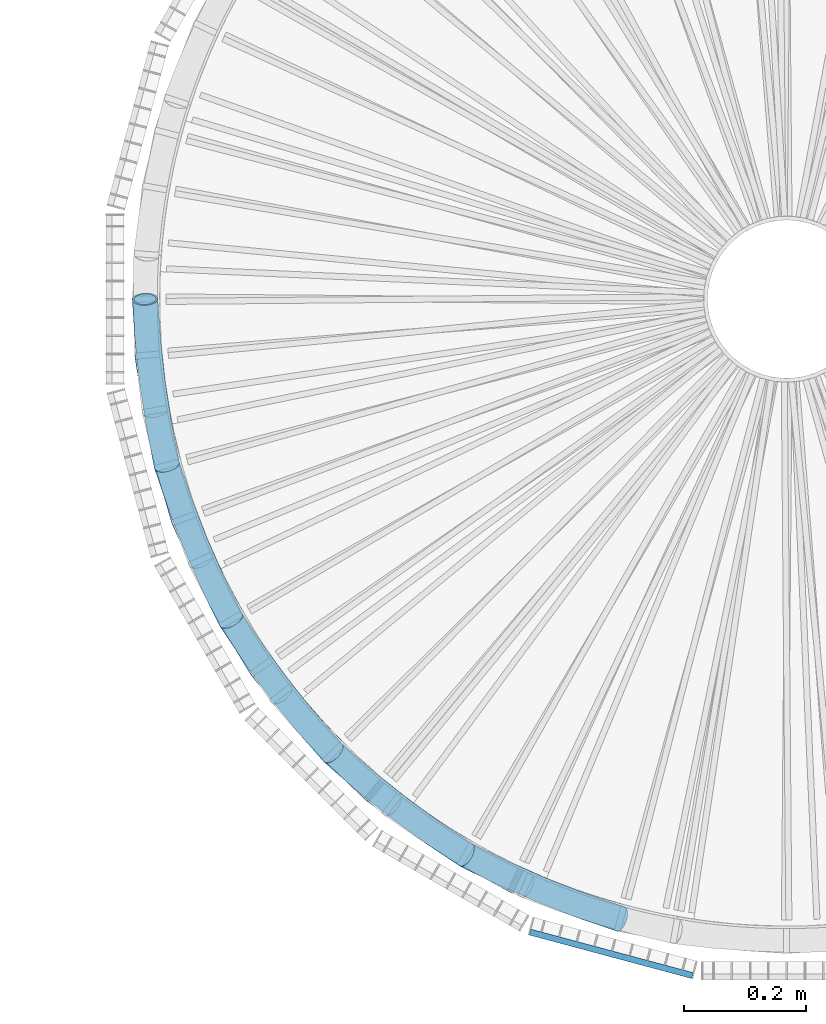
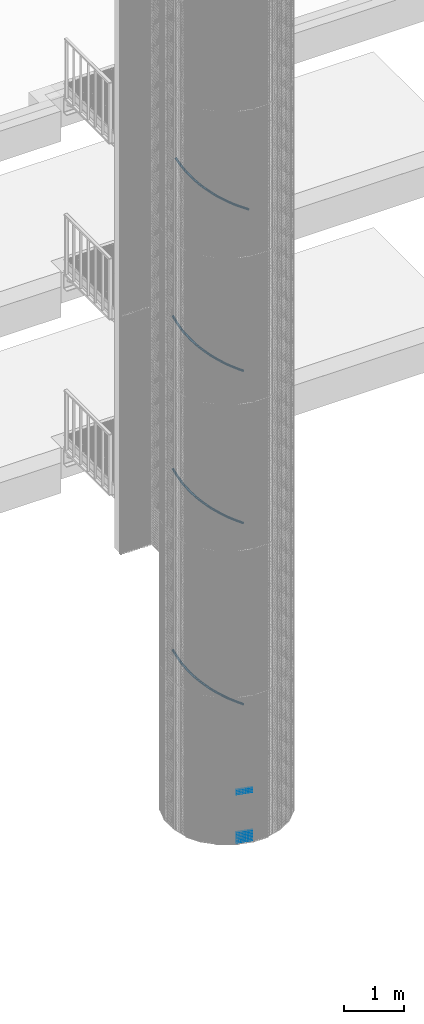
# One storey, part 387 of 1183: 20 members, 12 beams, 21 elements without a shape of their own.
"""IFC2X3 building model written with IfcOpenShell, lengths in millimetres."""

from ifc_helpers import new_model, entity, si_unit, frame, origin_with_axes, origin_2d_with_axis, place, context, subcontext, project, spatial, rectangle, extrude, material, type_object, element, aggregate, save


model = new_model("IFC2X3")

# Units and contexts
model_context = context("Model", 3, precision=1e-05, world=origin_with_axes())
body_context = subcontext(model_context, "Body", "Model", "MODEL_VIEW")
ifc_project = project(units=[si_unit("LENGTHUNIT", "METRE", prefix="MILLI"), si_unit("AREAUNIT", "SQUARE_METRE"), si_unit("VOLUMEUNIT", "CUBIC_METRE"), si_unit("MASSUNIT", "GRAM", prefix="KILO"), si_unit("TIMEUNIT", "SECOND"), si_unit("PLANEANGLEUNIT", "RADIAN"), si_unit("SOLIDANGLEUNIT", "STERADIAN"), si_unit("THERMODYNAMICTEMPERATUREUNIT", "DEGREE_CELSIUS"), si_unit("LUMINOUSINTENSITYUNIT", "LUMEN")], contexts=[model_context])

# Site, building, storey
site_placement = place(None, origin_with_axes())
site = spatial("IfcSite", under=ifc_project, at=site_placement, Name="Undefined", CompositionType="ELEMENT")
building_placement = place(site_placement, origin_with_axes())
building = spatial("IfcBuilding", under=site, at=building_placement, Name="Undefined", CompositionType="ELEMENT")
storey_placement = place(building_placement, origin_with_axes())
storey = spatial("IfcBuildingStorey", under=building, at=storey_placement, Name="Undefined", CompositionType="ELEMENT", Elevation=0.0)

# Assembly, beams
assembly_1_placement = place(storey_placement, origin_with_axes())
assembly_1 = element("IfcElementAssembly", 1, at=assembly_1_placement, inside=storey, Name="BORDURE", AssemblyPlace="NOTDEFINED", PredefinedType="NOTDEFINED")
ifc_material = material(Name="STEEL/S235JR")
beam_type = type_object("IfcBeamType", Name="PL2*10", PredefinedType="NOTDEFINED")
beam_1_placement = place(assembly_1_placement, frame((21445.1040732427, -1111.25508286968, 239.999999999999), z_axis=(-0.258819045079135, -0.965925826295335, 0.0), x_axis=(-0.965925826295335, 0.258819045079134, 0.0)))
beam_1 = element("IfcBeam", 2, at=beam_1_placement, type_object=beam_type, material=ifc_material, Name="ENTRETOISE", context=body_context, shape_type="SweptSolid", body=[
    extrude(rectangle(XDim=2.0, YDim=10.0, at=origin_2d_with_axis()), frame((275.999999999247, 9.09494701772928e-13, 1.53210777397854e-14), z_axis=(-1.0, 0.0, 0.0), x_axis=(0.0, -1.0, 0.0)), (0.0, 0.0, 1.0), 276.0),
])
beam_2_placement = place(assembly_1_placement, frame((21445.1040732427, -1111.25508286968, 1020.0), z_axis=(-0.258819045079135, -0.965925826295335, 0.0), x_axis=(-0.965925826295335, 0.258819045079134, 0.0)))
beam_2 = element("IfcBeam", 3, at=beam_2_placement, type_object=beam_type, material=ifc_material, Name="ENTRETOISE", context=body_context, shape_type="SweptSolid", body=[
    extrude(rectangle(XDim=2.0, YDim=10.0, at=origin_2d_with_axis()), frame((275.999999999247, 9.09494701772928e-13, 1.53210777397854e-14), z_axis=(-1.0, 0.0, 0.0), x_axis=(0.0, -1.0, 0.0)), (0.0, 0.0, 1.0), 276.0),
])
beam_3_placement = place(assembly_1_placement, frame((21445.1040732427, -1111.25508286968, 209.999999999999), z_axis=(-0.258819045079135, -0.965925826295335, 0.0), x_axis=(-0.965925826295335, 0.258819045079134, 0.0)))
beam_3 = element("IfcBeam", 4, at=beam_3_placement, type_object=beam_type, material=ifc_material, Name="ENTRETOISE", context=body_context, shape_type="SweptSolid", body=[
    extrude(rectangle(XDim=2.0, YDim=10.0, at=origin_2d_with_axis()), frame((275.999999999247, 9.09494701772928e-13, 1.53210777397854e-14), z_axis=(-1.0, 0.0, 0.0), x_axis=(0.0, -1.0, 0.0)), (0.0, 0.0, 1.0), 276.0),
])
beam_4_placement = place(assembly_1_placement, frame((21445.1040732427, -1111.25508286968, 179.999999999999), z_axis=(-0.258819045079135, -0.965925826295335, 0.0), x_axis=(-0.965925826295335, 0.258819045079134, 0.0)))
beam_4 = element("IfcBeam", 5, at=beam_4_placement, type_object=beam_type, material=ifc_material, Name="ENTRETOISE", context=body_context, shape_type="SweptSolid", body=[
    extrude(rectangle(XDim=2.0, YDim=10.0, at=origin_2d_with_axis()), frame((275.999999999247, 9.09494701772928e-13, 1.53210777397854e-14), z_axis=(-1.0, 0.0, 0.0), x_axis=(0.0, -1.0, 0.0)), (0.0, 0.0, 1.0), 276.0),
])
beam_5_placement = place(assembly_1_placement, frame((21445.1040732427, -1111.25508286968, 1050.0), z_axis=(-0.258819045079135, -0.965925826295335, 0.0), x_axis=(-0.965925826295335, 0.258819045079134, 0.0)))
beam_5 = element("IfcBeam", 6, at=beam_5_placement, type_object=beam_type, material=ifc_material, Name="ENTRETOISE", context=body_context, shape_type="SweptSolid", body=[
    extrude(rectangle(XDim=2.0, YDim=10.0, at=origin_2d_with_axis()), frame((275.999999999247, 9.09494701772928e-13, 1.53210777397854e-14), z_axis=(-1.0, 0.0, 0.0), x_axis=(0.0, -1.0, 0.0)), (0.0, 0.0, 1.0), 276.0),
])
beam_6_placement = place(assembly_1_placement, frame((21445.1040732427, -1111.25508286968, 149.999999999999), z_axis=(-0.258819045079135, -0.965925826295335, 0.0), x_axis=(-0.965925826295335, 0.258819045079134, 0.0)))
beam_6 = element("IfcBeam", 7, at=beam_6_placement, type_object=beam_type, material=ifc_material, Name="ENTRETOISE", context=body_context, shape_type="SweptSolid", body=[
    extrude(rectangle(XDim=2.0, YDim=10.0, at=origin_2d_with_axis()), frame((275.999999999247, 9.09494701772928e-13, 1.53210777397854e-14), z_axis=(-1.0, 0.0, 0.0), x_axis=(0.0, -1.0, 0.0)), (0.0, 0.0, 1.0), 276.0),
])
beam_7_placement = place(assembly_1_placement, frame((21445.1040732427, -1111.25508286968, 119.999999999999), z_axis=(-0.258819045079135, -0.965925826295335, 0.0), x_axis=(-0.965925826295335, 0.258819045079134, 0.0)))
beam_7 = element("IfcBeam", 8, at=beam_7_placement, type_object=beam_type, material=ifc_material, Name="ENTRETOISE", context=body_context, shape_type="SweptSolid", body=[
    extrude(rectangle(XDim=2.0, YDim=10.0, at=origin_2d_with_axis()), frame((275.999999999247, 9.09494701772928e-13, 1.53210777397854e-14), z_axis=(-1.0, 0.0, 0.0), x_axis=(0.0, -1.0, 0.0)), (0.0, 0.0, 1.0), 276.0),
])
beam_8_placement = place(assembly_1_placement, frame((21445.1040732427, -1111.25508286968, 1080.0), z_axis=(-0.258819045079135, -0.965925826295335, 0.0), x_axis=(-0.965925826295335, 0.258819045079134, 0.0)))
beam_8 = element("IfcBeam", 9, at=beam_8_placement, type_object=beam_type, material=ifc_material, Name="ENTRETOISE", context=body_context, shape_type="SweptSolid", body=[
    extrude(rectangle(XDim=2.0, YDim=10.0, at=origin_2d_with_axis()), frame((275.999999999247, 9.09494701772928e-13, 1.53210777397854e-14), z_axis=(-1.0, 0.0, 0.0), x_axis=(0.0, -1.0, 0.0)), (0.0, 0.0, 1.0), 276.0),
])
beam_9_placement = place(assembly_1_placement, frame((21445.1040732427, -1111.25508286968, 89.9999999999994), z_axis=(-0.258819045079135, -0.965925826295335, 0.0), x_axis=(-0.965925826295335, 0.258819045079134, 0.0)))
beam_9 = element("IfcBeam", 10, at=beam_9_placement, type_object=beam_type, material=ifc_material, Name="ENTRETOISE", context=body_context, shape_type="SweptSolid", body=[
    extrude(rectangle(XDim=2.0, YDim=10.0, at=origin_2d_with_axis()), frame((275.999999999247, 9.09494701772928e-13, 1.53210777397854e-14), z_axis=(-1.0, 0.0, 0.0), x_axis=(0.0, -1.0, 0.0)), (0.0, 0.0, 1.0), 276.0),
])
beam_10_placement = place(assembly_1_placement, frame((21445.1040732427, -1111.25508286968, 59.9999999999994), z_axis=(-0.258819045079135, -0.965925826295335, 0.0), x_axis=(-0.965925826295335, 0.258819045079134, 0.0)))
beam_10 = element("IfcBeam", 11, at=beam_10_placement, type_object=beam_type, material=ifc_material, Name="ENTRETOISE", context=body_context, shape_type="SweptSolid", body=[
    extrude(rectangle(XDim=2.0, YDim=10.0, at=origin_2d_with_axis()), frame((275.999999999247, 9.09494701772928e-13, 1.53210777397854e-14), z_axis=(-1.0, 0.0, 0.0), x_axis=(0.0, -1.0, 0.0)), (0.0, 0.0, 1.0), 276.0),
])
beam_11_placement = place(assembly_1_placement, frame((21445.1040732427, -1111.25508286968, 1110.0), z_axis=(-0.258819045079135, -0.965925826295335, 0.0), x_axis=(-0.965925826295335, 0.258819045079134, 0.0)))
beam_11 = element("IfcBeam", 12, at=beam_11_placement, type_object=beam_type, material=ifc_material, Name="ENTRETOISE", context=body_context, shape_type="SweptSolid", body=[
    extrude(rectangle(XDim=2.0, YDim=10.0, at=origin_2d_with_axis()), frame((275.999999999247, 9.09494701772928e-13, 1.53210777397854e-14), z_axis=(-1.0, 0.0, 0.0), x_axis=(0.0, -1.0, 0.0)), (0.0, 0.0, 1.0), 276.0),
])
beam_12_placement = place(assembly_1_placement, frame((21445.1040732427, -1111.25508286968, 29.9999999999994), z_axis=(-0.258819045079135, -0.965925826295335, 0.0), x_axis=(-0.965925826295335, 0.258819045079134, 0.0)))
beam_12 = element("IfcBeam", 13, at=beam_12_placement, type_object=beam_type, material=ifc_material, Name="ENTRETOISE", context=body_context, shape_type="SweptSolid", body=[
    extrude(rectangle(XDim=2.0, YDim=10.0, at=origin_2d_with_axis()), frame((275.999999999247, 9.09494701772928e-13, 1.53210777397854e-14), z_axis=(-1.0, 0.0, 0.0), x_axis=(0.0, -1.0, 0.0)), (0.0, 0.0, 1.0), 276.0),
])
aggregate(assembly_1, [beam_1, beam_2, beam_3, beam_4, beam_5, beam_6, beam_7, beam_8, beam_9, beam_10, beam_11, beam_12])

# Assembly, member
assembly_2_placement = place(storey_placement, origin_with_axes())
assembly_2 = element("IfcElementAssembly", 14, at=assembly_2_placement, inside=storey, Name="MONTANT", AssemblyPlace="NOTDEFINED", PredefinedType="NOTDEFINED")
member_type = type_object("IfcMemberType", Name="TUBE-42.4*3.2", PredefinedType="NOTDEFINED")
member_1_placement = place(assembly_2_placement, frame((20581.9141790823, -272.795273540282, 7126.27999999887), z_axis=(-0.991444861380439, -0.130526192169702, -6.66004780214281e-11), x_axis=(-0.113807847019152, 0.864456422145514, 0.489655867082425)))
member_1 = element("IfcMember", 15, at=member_1_placement, type_object=member_type, material=ifc_material, Name="MAIN_COURANTE", context=body_context, shape_type="SweptSolid", body=[
    entity("IfcRevolvedAreaSolid", entity("IfcCircleHollowProfileDef", "AREA", None, entity("IfcAxis2Placement2D", entity("IfcCartesianPoint", [0.0, 0.0]), entity("IfcDirection", [1.0, 0.0])), 21.200000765, 3.200000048), entity("IfcAxis2Placement3D", entity("IfcCartesianPoint", [315.568566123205, -9.09494701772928e-13, -1.31255851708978e-15]), entity("IfcDirection", [-0.997194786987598, -4.44488503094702e-18, 0.0748502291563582]), entity("IfcDirection", [0.0, -1.0, 0.0])), entity("IfcAxis1Placement", entity("IfcCartesianPoint", [0.0, -2108.0, 0.0]), entity("IfcDirection", [1.0, 0.0, 0.0])), 0.149840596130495),
])
aggregate(assembly_2, [member_1])

assembly_3_placement = place(storey_placement, origin_with_axes())
assembly_3 = element("IfcElementAssembly", 16, at=assembly_3_placement, inside=storey, Name="MONTANT", AssemblyPlace="NOTDEFINED", PredefinedType="NOTDEFINED")
member_2_placement = place(assembly_3_placement, frame((20687.2092244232, -526.999999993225, 6971.75999999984), z_axis=(-0.923879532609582, -0.382683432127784, -1.50203959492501e-10), x_axis=(-0.333667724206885, 0.805545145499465, 0.489655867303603)))
member_2 = element("IfcMember", 17, at=member_2_placement, type_object=member_type, material=ifc_material, Name="MAIN_COURANTE", context=body_context, shape_type="SweptSolid", body=[
    entity("IfcRevolvedAreaSolid", entity("IfcCircleHollowProfileDef", "AREA", None, entity("IfcAxis2Placement2D", entity("IfcCartesianPoint", [0.0, 0.0]), entity("IfcDirection", [1.0, 0.0])), 21.200000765, 3.200000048), entity("IfcAxis2Placement3D", entity("IfcCartesianPoint", [315.568566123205, -9.09494701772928e-13, -1.31255851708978e-15]), entity("IfcDirection", [-0.997194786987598, -4.44488503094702e-18, 0.0748502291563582]), entity("IfcDirection", [0.0, -1.0, 0.0])), entity("IfcAxis1Placement", entity("IfcCartesianPoint", [0.0, -2108.0, 0.0]), entity("IfcDirection", [1.0, 0.0, 0.0])), 0.1498405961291),
])
aggregate(assembly_3, [member_2])

assembly_4_placement = place(storey_placement, origin_with_axes())
assembly_4 = element("IfcElementAssembly", 18, at=assembly_4_placement, inside=storey, Name="MONTANT", AssemblyPlace="NOTDEFINED", PredefinedType="NOTDEFINED")
member_3_placement = place(assembly_4_placement, frame((20854.7094526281, -745.290547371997, 6817.2400000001), z_axis=(-0.793353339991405, -0.608761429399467, -1.80915776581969e-10), x_axis=(-0.530788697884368, 0.691737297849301, 0.489655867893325)))
member_3 = element("IfcMember", 19, at=member_3_placement, type_object=member_type, material=ifc_material, Name="MAIN_COURANTE", context=body_context, shape_type="SweptSolid", body=[
    entity("IfcRevolvedAreaSolid", entity("IfcCircleHollowProfileDef", "AREA", None, entity("IfcAxis2Placement2D", entity("IfcCartesianPoint", [0.0, 0.0]), entity("IfcDirection", [1.0, 0.0])), 21.200000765, 3.200000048), entity("IfcAxis2Placement3D", entity("IfcCartesianPoint", [315.568566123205, -9.09494701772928e-13, -1.31255851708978e-15]), entity("IfcDirection", [-0.997194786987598, -4.44488503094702e-18, 0.0748502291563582]), entity("IfcDirection", [0.0, -1.0, 0.0])), entity("IfcAxis1Placement", entity("IfcCartesianPoint", [0.0, -2108.0, 0.0]), entity("IfcDirection", [1.0, 0.0, 0.0])), 0.149840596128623),
])
aggregate(assembly_4, [member_3])

assembly_5_placement = place(storey_placement, origin_with_axes())
assembly_5 = element("IfcElementAssembly", 20, at=assembly_5_placement, inside=storey, Name="MONTANT", AssemblyPlace="NOTDEFINED", PredefinedType="NOTDEFINED")
member_4_placement = place(assembly_5_placement, frame((21072.9999999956, -912.790775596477, 6662.71999999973), z_axis=(-0.608761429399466, -0.793353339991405, 1.80915776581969e-10), x_axis=(-0.691737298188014, 0.53078869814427, 0.48965586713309)))
member_4 = element("IfcMember", 21, at=member_4_placement, type_object=member_type, material=ifc_material, Name="MAIN_COURANTE", context=body_context, shape_type="SweptSolid", body=[
    entity("IfcRevolvedAreaSolid", entity("IfcCircleHollowProfileDef", "AREA", None, entity("IfcAxis2Placement2D", entity("IfcCartesianPoint", [0.0, 0.0]), entity("IfcDirection", [1.0, 0.0])), 21.200000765, 3.200000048), entity("IfcAxis2Placement3D", entity("IfcCartesianPoint", [315.568566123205, -9.09494701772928e-13, -1.31255851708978e-15]), entity("IfcDirection", [-0.997194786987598, -4.44488503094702e-18, 0.0748502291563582]), entity("IfcDirection", [0.0, -1.0, 0.0])), entity("IfcAxis1Placement", entity("IfcCartesianPoint", [0.0, -2108.0, 0.0]), entity("IfcDirection", [1.0, 0.0, 0.0])), 0.149840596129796),
])
aggregate(assembly_5, [member_4])

assembly_6_placement = place(storey_placement, origin_with_axes())
assembly_6 = element("IfcElementAssembly", 22, at=assembly_6_placement, inside=storey, Name="MONTANT", AssemblyPlace="NOTDEFINED", PredefinedType="NOTDEFINED")
member_5_placement = place(assembly_6_placement, frame((21327.2047264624, -1018.08582090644, 6508.20000000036), z_axis=(-0.382683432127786, -0.923879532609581, 1.50204868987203e-10), x_axis=(-0.805545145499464, 0.333667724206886, 0.489655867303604)))
member_5 = element("IfcMember", 23, at=member_5_placement, type_object=member_type, material=ifc_material, Name="MAIN_COURANTE", context=body_context, shape_type="SweptSolid", body=[
    entity("IfcRevolvedAreaSolid", entity("IfcCircleHollowProfileDef", "AREA", None, entity("IfcAxis2Placement2D", entity("IfcCartesianPoint", [0.0, 0.0]), entity("IfcDirection", [1.0, 0.0])), 21.200000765, 3.200000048), entity("IfcAxis2Placement3D", entity("IfcCartesianPoint", [315.568566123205, -9.09494701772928e-13, -1.31255851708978e-15]), entity("IfcDirection", [-0.997194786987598, -4.44488503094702e-18, 0.0748502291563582]), entity("IfcDirection", [0.0, -1.0, 0.0])), entity("IfcAxis1Placement", entity("IfcCartesianPoint", [0.0, -2108.0, 0.0]), entity("IfcDirection", [1.0, 0.0, 0.0])), 0.14984059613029),
])
aggregate(assembly_6, [member_5])

assembly_7_placement = place(storey_placement, origin_with_axes())
assembly_7 = element("IfcElementAssembly", 24, at=assembly_7_placement, inside=storey, Name="MONTANT", AssemblyPlace="NOTDEFINED", PredefinedType="NOTDEFINED")
member_6_placement = place(assembly_7_placement, frame((20581.9141790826, -272.795273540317, 3417.79999999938), z_axis=(-0.991444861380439, -0.130526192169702, -6.66004780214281e-11), x_axis=(-0.113807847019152, 0.864456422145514, 0.489655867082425)))
member_6 = element("IfcMember", 25, at=member_6_placement, type_object=member_type, material=ifc_material, Name="MAIN_COURANTE", context=body_context, shape_type="SweptSolid", body=[
    entity("IfcRevolvedAreaSolid", entity("IfcCircleHollowProfileDef", "AREA", None, entity("IfcAxis2Placement2D", entity("IfcCartesianPoint", [0.0, 0.0]), entity("IfcDirection", [1.0, 0.0])), 21.200000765, 3.200000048), entity("IfcAxis2Placement3D", entity("IfcCartesianPoint", [315.568566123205, -9.09494701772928e-13, -1.31255851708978e-15]), entity("IfcDirection", [-0.997194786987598, -4.44488503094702e-18, 0.0748502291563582]), entity("IfcDirection", [0.0, -1.0, 0.0])), entity("IfcAxis1Placement", entity("IfcCartesianPoint", [0.0, -2108.0, 0.0]), entity("IfcDirection", [1.0, 0.0, 0.0])), 0.149840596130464),
])
aggregate(assembly_7, [member_6])

assembly_8_placement = place(storey_placement, origin_with_axes())
assembly_8 = element("IfcElementAssembly", 26, at=assembly_8_placement, inside=storey, Name="MONTANT", AssemblyPlace="NOTDEFINED", PredefinedType="NOTDEFINED")
member_7_placement = place(assembly_8_placement, frame((20687.2092244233, -526.999999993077, 3263.27999999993), z_axis=(-0.923879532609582, -0.382683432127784, -1.50203959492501e-10), x_axis=(-0.333667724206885, 0.805545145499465, 0.489655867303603)))
member_7 = element("IfcMember", 27, at=member_7_placement, type_object=member_type, material=ifc_material, Name="MAIN_COURANTE", context=body_context, shape_type="SweptSolid", body=[
    entity("IfcRevolvedAreaSolid", entity("IfcCircleHollowProfileDef", "AREA", None, entity("IfcAxis2Placement2D", entity("IfcCartesianPoint", [0.0, 0.0]), entity("IfcDirection", [1.0, 0.0])), 21.200000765, 3.200000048), entity("IfcAxis2Placement3D", entity("IfcCartesianPoint", [315.568566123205, -9.09494701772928e-13, -1.31255851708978e-15]), entity("IfcDirection", [-0.997194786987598, -4.44488503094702e-18, 0.0748502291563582]), entity("IfcDirection", [0.0, -1.0, 0.0])), entity("IfcAxis1Placement", entity("IfcCartesianPoint", [0.0, -2108.0, 0.0]), entity("IfcDirection", [1.0, 0.0, 0.0])), 0.149840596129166),
])
aggregate(assembly_8, [member_7])

assembly_9_placement = place(storey_placement, origin_with_axes())
assembly_9 = element("IfcElementAssembly", 28, at=assembly_9_placement, inside=storey, Name="MONTANT", AssemblyPlace="NOTDEFINED", PredefinedType="NOTDEFINED")
member_8_placement = place(assembly_9_placement, frame((20854.7094526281, -745.290547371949, 3108.76000000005), z_axis=(-0.793353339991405, -0.608761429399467, -1.80915776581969e-10), x_axis=(-0.530788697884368, 0.691737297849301, 0.489655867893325)))
member_8 = element("IfcMember", 29, at=member_8_placement, type_object=member_type, material=ifc_material, Name="MAIN_COURANTE", context=body_context, shape_type="SweptSolid", body=[
    entity("IfcRevolvedAreaSolid", entity("IfcCircleHollowProfileDef", "AREA", None, entity("IfcAxis2Placement2D", entity("IfcCartesianPoint", [0.0, 0.0]), entity("IfcDirection", [1.0, 0.0])), 21.200000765, 3.200000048), entity("IfcAxis2Placement3D", entity("IfcCartesianPoint", [315.568566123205, -9.09494701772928e-13, -1.31255851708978e-15]), entity("IfcDirection", [-0.997194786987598, -4.44488503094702e-18, 0.0748502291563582]), entity("IfcDirection", [0.0, -1.0, 0.0])), entity("IfcAxis1Placement", entity("IfcCartesianPoint", [0.0, -2108.0, 0.0]), entity("IfcDirection", [1.0, 0.0, 0.0])), 0.149840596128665),
])
aggregate(assembly_9, [member_8])

assembly_10_placement = place(storey_placement, origin_with_axes())
assembly_10 = element("IfcElementAssembly", 30, at=assembly_10_placement, inside=storey, Name="MONTANT", AssemblyPlace="NOTDEFINED", PredefinedType="NOTDEFINED")
member_9_placement = place(assembly_10_placement, frame((21072.9999999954, -912.790775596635, 2954.23999999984), z_axis=(-0.608761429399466, -0.793353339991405, 1.80915776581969e-10), x_axis=(-0.691737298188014, 0.53078869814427, 0.48965586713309)))
member_9 = element("IfcMember", 31, at=member_9_placement, type_object=member_type, material=ifc_material, Name="MAIN_COURANTE", context=body_context, shape_type="SweptSolid", body=[
    entity("IfcRevolvedAreaSolid", entity("IfcCircleHollowProfileDef", "AREA", None, entity("IfcAxis2Placement2D", entity("IfcCartesianPoint", [0.0, 0.0]), entity("IfcDirection", [1.0, 0.0])), 21.200000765, 3.200000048), entity("IfcAxis2Placement3D", entity("IfcCartesianPoint", [315.568566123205, -9.09494701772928e-13, -1.31255851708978e-15]), entity("IfcDirection", [-0.997194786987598, -4.44488503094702e-18, 0.0748502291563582]), entity("IfcDirection", [0.0, -1.0, 0.0])), entity("IfcAxis1Placement", entity("IfcCartesianPoint", [0.0, -2108.0, 0.0]), entity("IfcDirection", [1.0, 0.0, 0.0])), 0.149840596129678),
])
aggregate(assembly_10, [member_9])

assembly_11_placement = place(storey_placement, origin_with_axes())
assembly_11 = element("IfcElementAssembly", 32, at=assembly_11_placement, inside=storey, Name="MONTANT", AssemblyPlace="NOTDEFINED", PredefinedType="NOTDEFINED")
member_10_placement = place(assembly_11_placement, frame((21327.2047264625, -1018.08582090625, 2799.7200000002), z_axis=(-0.382683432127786, -0.923879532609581, 1.50204868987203e-10), x_axis=(-0.805545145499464, 0.333667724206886, 0.489655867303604)))
member_10 = element("IfcMember", 33, at=member_10_placement, type_object=member_type, material=ifc_material, Name="MAIN_COURANTE", context=body_context, shape_type="SweptSolid", body=[
    entity("IfcRevolvedAreaSolid", entity("IfcCircleHollowProfileDef", "AREA", None, entity("IfcAxis2Placement2D", entity("IfcCartesianPoint", [0.0, 0.0]), entity("IfcDirection", [1.0, 0.0])), 21.200000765, 3.200000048), entity("IfcAxis2Placement3D", entity("IfcCartesianPoint", [315.568566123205, -9.09494701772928e-13, -1.31255851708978e-15]), entity("IfcDirection", [-0.997194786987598, -4.44488503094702e-18, 0.0748502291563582]), entity("IfcDirection", [0.0, -1.0, 0.0])), entity("IfcAxis1Placement", entity("IfcCartesianPoint", [0.0, -2108.0, 0.0]), entity("IfcDirection", [1.0, 0.0, 0.0])), 0.149840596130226),
])
aggregate(assembly_11, [member_10])

assembly_12_placement = place(storey_placement, origin_with_axes())
assembly_12 = element("IfcElementAssembly", 34, at=assembly_12_placement, inside=storey, Name="MONTANT", AssemblyPlace="NOTDEFINED", PredefinedType="NOTDEFINED")
member_11_placement = place(assembly_12_placement, frame((20581.9141790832, -272.795273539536, 10250.8400000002), z_axis=(-0.991444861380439, -0.130526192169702, -6.66004780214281e-11), x_axis=(-0.113454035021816, 0.861768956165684, 0.494451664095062)))
member_11 = element("IfcMember", 35, at=member_11_placement, type_object=member_type, material=ifc_material, Name="MAIN_COURANTE", context=body_context, shape_type="SweptSolid", body=[
    entity("IfcRevolvedAreaSolid", entity("IfcCircleHollowProfileDef", "AREA", None, entity("IfcAxis2Placement2D", entity("IfcCartesianPoint", [0.0, 0.0]), entity("IfcDirection", [1.0, 0.0])), 21.200000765, 3.200000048), entity("IfcAxis2Placement3D", entity("IfcCartesianPoint", [316.552681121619, 9.09494701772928e-13, -1.82569453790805e-12]), entity("IfcDirection", [-0.997177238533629, 2.1263748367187e-18, 0.0750836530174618]), entity("IfcDirection", [0.0, -1.0, 0.0])), entity("IfcAxis1Placement", entity("IfcCartesianPoint", [0.0, -2108.0, 0.0]), entity("IfcDirection", [1.0, 0.0, 0.0])), 0.150308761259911),
])
aggregate(assembly_12, [member_11])

assembly_13_placement = place(storey_placement, origin_with_axes())
assembly_13 = element("IfcElementAssembly", 36, at=assembly_13_placement, inside=storey, Name="MONTANT", AssemblyPlace="NOTDEFINED", PredefinedType="NOTDEFINED")
member_12_placement = place(assembly_13_placement, frame((20687.2092244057, -527.000000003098, 10094.3199999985), z_axis=(-0.923879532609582, -0.382683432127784, -1.50203959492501e-10), x_axis=(-0.332630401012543, 0.803040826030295, 0.494451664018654)))
member_12 = element("IfcMember", 37, at=member_12_placement, type_object=member_type, material=ifc_material, Name="MAIN_COURANTE", context=body_context, shape_type="SweptSolid", body=[
    entity("IfcRevolvedAreaSolid", entity("IfcCircleHollowProfileDef", "AREA", None, entity("IfcAxis2Placement2D", entity("IfcCartesianPoint", [0.0, 0.0]), entity("IfcDirection", [1.0, 0.0])), 21.200000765, 3.200000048), entity("IfcAxis2Placement3D", entity("IfcCartesianPoint", [316.552681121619, 9.09494701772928e-13, -1.82569453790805e-12]), entity("IfcDirection", [-0.997177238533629, 2.1263748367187e-18, 0.0750836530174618]), entity("IfcDirection", [0.0, -1.0, 0.0])), entity("IfcAxis1Placement", entity("IfcCartesianPoint", [0.0, -2108.0, 0.0]), entity("IfcDirection", [1.0, 0.0, 0.0])), 0.150308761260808),
])
aggregate(assembly_13, [member_12])

assembly_14_placement = place(storey_placement, origin_with_axes())
assembly_14 = element("IfcElementAssembly", 38, at=assembly_14_placement, inside=storey, Name="MONTANT", AssemblyPlace="NOTDEFINED", PredefinedType="NOTDEFINED")
member_13_placement = place(assembly_14_placement, frame((20854.7094526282, -745.290547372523, 9937.79999999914), z_axis=(-0.793353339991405, -0.608761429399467, -1.80915776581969e-10), x_axis=(-0.529138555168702, 0.689586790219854, 0.494451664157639)))
member_13 = element("IfcMember", 39, at=member_13_placement, type_object=member_type, material=ifc_material, Name="MAIN_COURANTE", context=body_context, shape_type="SweptSolid", body=[
    entity("IfcRevolvedAreaSolid", entity("IfcCircleHollowProfileDef", "AREA", None, entity("IfcAxis2Placement2D", entity("IfcCartesianPoint", [0.0, 0.0]), entity("IfcDirection", [1.0, 0.0])), 21.200000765, 3.200000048), entity("IfcAxis2Placement3D", entity("IfcCartesianPoint", [316.552681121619, 9.09494701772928e-13, -1.82569453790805e-12]), entity("IfcDirection", [-0.997177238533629, 2.1263748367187e-18, 0.0750836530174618]), entity("IfcDirection", [0.0, -1.0, 0.0])), entity("IfcAxis1Placement", entity("IfcCartesianPoint", [0.0, -2108.0, 0.0]), entity("IfcDirection", [1.0, 0.0, 0.0])), 0.150308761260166),
])
aggregate(assembly_14, [member_13])

assembly_15_placement = place(storey_placement, origin_with_axes())
assembly_15 = element("IfcElementAssembly", 40, at=assembly_15_placement, inside=storey, Name="MONTANT", AssemblyPlace="NOTDEFINED", PredefinedType="NOTDEFINED")
member_14_placement = place(assembly_15_placement, frame((21072.9999999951, -912.790775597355, 9781.28000000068), z_axis=(-0.608761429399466, -0.793353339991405, 1.80915776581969e-10), x_axis=(-0.689586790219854, 0.5291385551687, 0.494451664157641)))
member_14 = element("IfcMember", 41, at=member_14_placement, type_object=member_type, material=ifc_material, Name="MAIN_COURANTE", context=body_context, shape_type="SweptSolid", body=[
    entity("IfcRevolvedAreaSolid", entity("IfcCircleHollowProfileDef", "AREA", None, entity("IfcAxis2Placement2D", entity("IfcCartesianPoint", [0.0, 0.0]), entity("IfcDirection", [1.0, 0.0])), 21.200000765, 3.200000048), entity("IfcAxis2Placement3D", entity("IfcCartesianPoint", [316.552681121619, 9.09494701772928e-13, -1.82569453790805e-12]), entity("IfcDirection", [-0.997177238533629, 2.1263748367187e-18, 0.0750836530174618]), entity("IfcDirection", [0.0, -1.0, 0.0])), entity("IfcAxis1Placement", entity("IfcCartesianPoint", [0.0, -2108.0, 0.0]), entity("IfcDirection", [1.0, 0.0, 0.0])), 0.150308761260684),
])
aggregate(assembly_15, [member_14])

assembly_16_placement = place(storey_placement, origin_with_axes())
assembly_16 = element("IfcElementAssembly", 42, at=assembly_16_placement, inside=storey, Name="MONTANT", AssemblyPlace="NOTDEFINED", PredefinedType="NOTDEFINED")
member_15_placement = place(assembly_16_placement, frame((21327.2047264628, -1018.08582090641, 9624.76000000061), z_axis=(-0.382683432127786, -0.923879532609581, 1.50204868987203e-10), x_axis=(-0.803040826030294, 0.332630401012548, 0.494451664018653)))
member_15 = element("IfcMember", 43, at=member_15_placement, type_object=member_type, material=ifc_material, Name="MAIN_COURANTE", context=body_context, shape_type="SweptSolid", body=[
    entity("IfcRevolvedAreaSolid", entity("IfcCircleHollowProfileDef", "AREA", None, entity("IfcAxis2Placement2D", entity("IfcCartesianPoint", [0.0, 0.0]), entity("IfcDirection", [1.0, 0.0])), 21.200000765, 3.200000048), entity("IfcAxis2Placement3D", entity("IfcCartesianPoint", [316.552681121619, 9.09494701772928e-13, -1.82569453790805e-12]), entity("IfcDirection", [-0.997177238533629, 2.1263748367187e-18, 0.0750836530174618]), entity("IfcDirection", [0.0, -1.0, 0.0])), entity("IfcAxis1Placement", entity("IfcCartesianPoint", [0.0, -2108.0, 0.0]), entity("IfcDirection", [1.0, 0.0, 0.0])), 0.15030876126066),
])
aggregate(assembly_16, [member_15])

assembly_17_placement = place(storey_placement, origin_with_axes())
assembly_17 = element("IfcElementAssembly", 44, at=assembly_17_placement, inside=storey, Name="MONTANT", AssemblyPlace="NOTDEFINED", PredefinedType="NOTDEFINED")
member_16_placement = place(assembly_17_placement, frame((20609.563977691, -360.489231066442, 13537.8000000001), z_axis=(-0.97629600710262, -0.216439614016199, 3.63797880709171e-12), x_axis=(-0.188130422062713, 0.848601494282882, 0.494451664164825)))
member_16 = element("IfcMember", 45, at=member_16_placement, type_object=member_type, material=ifc_material, Name="MAIN_COURANTE", context=body_context, shape_type="SweptSolid", body=[
    entity("IfcRevolvedAreaSolid", entity("IfcCircleHollowProfileDef", "AREA", None, entity("IfcAxis2Placement2D", entity("IfcCartesianPoint", [0.0, 0.0]), entity("IfcDirection", [1.0, 0.0])), 21.200000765, 3.200000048), entity("IfcAxis2Placement3D", entity("IfcCartesianPoint", [316.552681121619, 9.09494701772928e-13, -1.82569453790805e-12]), entity("IfcDirection", [-0.997177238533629, 2.1263748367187e-18, 0.0750836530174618]), entity("IfcDirection", [0.0, -1.0, 0.0])), entity("IfcAxis1Placement", entity("IfcCartesianPoint", [0.0, -2108.0, 0.0]), entity("IfcDirection", [1.0, 0.0, 0.0])), 0.150308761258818),
])
aggregate(assembly_17, [member_16])

assembly_18_placement = place(storey_placement, origin_with_axes())
assembly_18 = element("IfcElementAssembly", 46, at=assembly_18_placement, inside=storey, Name="MONTANT", AssemblyPlace="NOTDEFINED", PredefinedType="NOTDEFINED")
member_17_placement = place(assembly_18_placement, frame((20736.6137453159, -604.549563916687, 13381.2799999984), z_axis=(-0.887010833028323, -0.461748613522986, -2.56448402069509e-10), x_axis=(-0.401354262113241, 0.770994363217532, 0.494451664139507)))
member_17 = element("IfcMember", 47, at=member_17_placement, type_object=member_type, material=ifc_material, Name="MAIN_COURANTE", context=body_context, shape_type="SweptSolid", body=[
    entity("IfcRevolvedAreaSolid", entity("IfcCircleHollowProfileDef", "AREA", None, entity("IfcAxis2Placement2D", entity("IfcCartesianPoint", [0.0, 0.0]), entity("IfcDirection", [1.0, 0.0])), 21.200000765, 3.200000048), entity("IfcAxis2Placement3D", entity("IfcCartesianPoint", [316.552681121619, 9.09494701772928e-13, -1.82569453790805e-12]), entity("IfcDirection", [-0.997177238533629, 2.1263748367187e-18, 0.0750836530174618]), entity("IfcDirection", [0.0, -1.0, 0.0])), entity("IfcAxis1Placement", entity("IfcCartesianPoint", [0.0, -2108.0, 0.0]), entity("IfcDirection", [1.0, 0.0, 0.0])), 0.150308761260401),
])
aggregate(assembly_18, [member_17])

assembly_19_placement = place(storey_placement, origin_with_axes())
assembly_19 = element("IfcElementAssembly", 48, at=assembly_19_placement, inside=storey, Name="MONTANT", AssemblyPlace="NOTDEFINED", PredefinedType="NOTDEFINED")
member_18_placement = place(assembly_19_placement, frame((20922.5018593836, -807.410843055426, 13224.7600000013), z_axis=(-0.737277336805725, -0.675590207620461, 8.45175236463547e-11), x_axis=(-0.587226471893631, 0.640845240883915, 0.494451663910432)))
member_18 = element("IfcMember", 49, at=member_18_placement, type_object=member_type, material=ifc_material, Name="MAIN_COURANTE", context=body_context, shape_type="SweptSolid", body=[
    entity("IfcRevolvedAreaSolid", entity("IfcCircleHollowProfileDef", "AREA", None, entity("IfcAxis2Placement2D", entity("IfcCartesianPoint", [0.0, 0.0]), entity("IfcDirection", [1.0, 0.0])), 21.200000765, 3.200000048), entity("IfcAxis2Placement3D", entity("IfcCartesianPoint", [316.552681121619, 9.09494701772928e-13, -1.82569453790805e-12]), entity("IfcDirection", [-0.997177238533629, 2.1263748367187e-18, 0.0750836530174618]), entity("IfcDirection", [0.0, -1.0, 0.0])), entity("IfcAxis1Placement", entity("IfcCartesianPoint", [0.0, -2108.0, 0.0]), entity("IfcDirection", [1.0, 0.0, 0.0])), 0.150308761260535),
])
aggregate(assembly_19, [member_18])

assembly_20_placement = place(storey_placement, origin_with_axes())
assembly_20 = element("IfcElementAssembly", 50, at=assembly_20_placement, inside=storey, Name="MONTANT", AssemblyPlace="NOTDEFINED", PredefinedType="NOTDEFINED")
member_19_placement = place(assembly_20_placement, frame((21154.5603521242, -955.248407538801, 13068.2400000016), z_axis=(-0.537299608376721, -0.843391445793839, 2.43750037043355e-10), x_axis=(-0.733080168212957, 0.467023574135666, 0.494451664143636)))
member_19 = element("IfcMember", 51, at=member_19_placement, type_object=member_type, material=ifc_material, Name="MAIN_COURANTE", context=body_context, shape_type="SweptSolid", body=[
    entity("IfcRevolvedAreaSolid", entity("IfcCircleHollowProfileDef", "AREA", None, entity("IfcAxis2Placement2D", entity("IfcCartesianPoint", [0.0, 0.0]), entity("IfcDirection", [1.0, 0.0])), 21.200000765, 3.200000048), entity("IfcAxis2Placement3D", entity("IfcCartesianPoint", [316.552681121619, 9.09494701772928e-13, -1.82569453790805e-12]), entity("IfcDirection", [-0.997177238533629, 2.1263748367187e-18, 0.0750836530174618]), entity("IfcDirection", [0.0, -1.0, 0.0])), entity("IfcAxis1Placement", entity("IfcCartesianPoint", [0.0, -2108.0, 0.0]), entity("IfcDirection", [1.0, 0.0, 0.0])), 0.150308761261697),
])
aggregate(assembly_20, [member_19])

assembly_21_placement = place(storey_placement, origin_with_axes())
assembly_21 = element("IfcElementAssembly", 52, at=assembly_21_placement, inside=storey, Name="MONTANT", AssemblyPlace="NOTDEFINED", PredefinedType="NOTDEFINED")
member_20_placement = place(assembly_21_placement, frame((21416.9748207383, -1037.98737168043, 12911.7199999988), z_axis=(-0.300705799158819, -0.953716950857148, -4.31926309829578e-10), x_axis=(-0.828975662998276, 0.261375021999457, 0.494451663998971)))
member_20 = element("IfcMember", 53, at=member_20_placement, type_object=member_type, material=ifc_material, Name="MAIN_COURANTE", context=body_context, shape_type="SweptSolid", body=[
    entity("IfcRevolvedAreaSolid", entity("IfcCircleHollowProfileDef", "AREA", None, entity("IfcAxis2Placement2D", entity("IfcCartesianPoint", [0.0, 0.0]), entity("IfcDirection", [1.0, 0.0])), 21.200000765, 3.200000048), entity("IfcAxis2Placement3D", entity("IfcCartesianPoint", [316.552681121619, 9.09494701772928e-13, -1.82569453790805e-12]), entity("IfcDirection", [-0.997177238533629, 2.1263748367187e-18, 0.0750836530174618]), entity("IfcDirection", [0.0, -1.0, 0.0])), entity("IfcAxis1Placement", entity("IfcCartesianPoint", [0.0, -2108.0, 0.0]), entity("IfcDirection", [1.0, 0.0, 0.0])), 0.150308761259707),
])
aggregate(assembly_21, [member_20])

save(model, "model.ifc")
